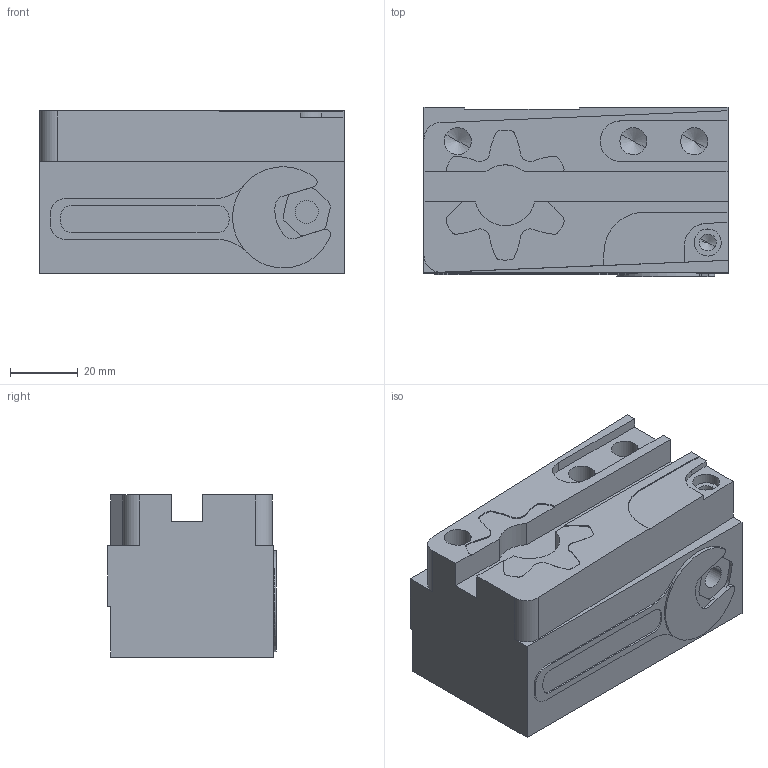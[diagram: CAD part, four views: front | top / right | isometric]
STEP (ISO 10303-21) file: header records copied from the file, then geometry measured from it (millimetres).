
FILE_DESCRIPTION(('CATIA V5 STEP Exchange'),'2;1');
FILE_NAME('C:\Users\Korisnik\Desktop\WCS_2026\DRŽAVNO\WSC_2026.stp','2026-03-09T17:11:07+00:00',('none'),('none'),'CATIA Version 5 Release 21 GA (IN-10)','CATIA V5 STEP AP203','none');
FILE_SCHEMA(('CONFIG_CONTROL_DESIGN'));
Length unit declared in the file: millimetre
Products named in the file (1): DRZAVNO_2026
Bounding box: 90 x 50 x 48 mm (x, y, z)
Volume: 190159.7 mm3; surface area: 24799.5 mm2
Topology: 1 solids, 1 shells, 144 faces, 408 edges, 266 vertices
Faces by surface type: cylinder 84, plane 52, cone 8
Entity records: 4415 total; most frequent: ORIENTED_EDGE 800, CARTESIAN_POINT 784, DIRECTION 634, EDGE_CURVE 400, AXIS2_PLACEMENT_3D 288, VERTEX_POINT 266, VECTOR 230, LINE 230
